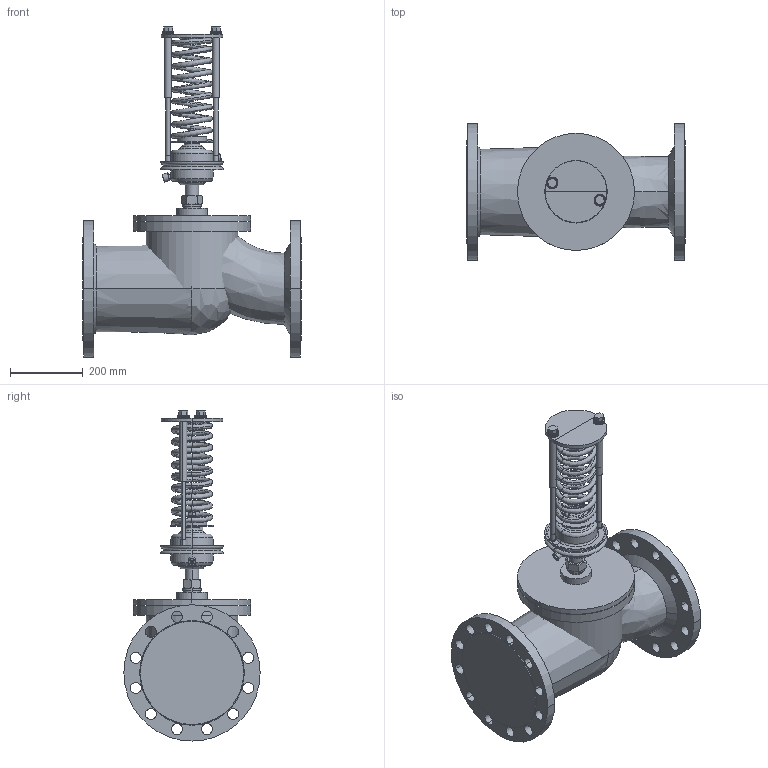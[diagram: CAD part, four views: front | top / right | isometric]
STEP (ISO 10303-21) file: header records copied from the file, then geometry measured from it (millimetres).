
FILE_DESCRIPTION(/* description */ (''),/* implementation_level */ '2;1');
FILE_NAME(/* name */ 'ETM_Регулятордавления_УРРД_НЗ_РД_DN200_PN40 0.05—0.3 МПа',/* time_stamp */ '2026-04-27T20:32:23+03:00',/* author */ (''),/* organization */ (''),/* preprocessor_version */ 'ST-DEVELOPER v20',/* originating_system */ '',/* authorisation */ '');
FILE_SCHEMA (('AP242_MANAGED_MODEL_BASED_3D_ENGINEERING_MIM_LF { 1 0 10303 442 1 1 4 }'));
Length unit declared in the file: millimetre
Products named in the file (13): TopLevelAssembly; Выдавливание; Переход; Выдавливание_
1; Переход_1; Переход_2; Переход_3; Объемная геометрия 
присоединена; Выдавливание_
2; Выдавливание_
3; Объемная геометрия 
присоединена_1; Выдавливание_
4; Пружина красная
Assembly tree (12 placements, depth 2):
  TopLevelAssembly
    Выдавливание
    Переход
    Выдавливание_
1
    Переход_1
    Переход_2
    Переход_3
    Объемная геометрия 
присоединена
    Выдавливание_
2
    Выдавливание_
3
    Объемная геометрия 
присоединена_1
    Выдавливание_
4
    Пружина красная
Bounding box: 600 x 375 x 908.35 mm (x, y, z)
Volume: 46730055.2 mm3; surface area: 2581632 mm2
Topology: 31 solids, 31 shells, 538 faces, 1101 edges, 605 vertices
Faces by surface type: plane 181, bspline 177, cylinder 170, cone 10
Entity records: 17318 total; most frequent: CARTESIAN_POINT 5461, DIRECTION 2505, ORIENTED_EDGE 2198, EDGE_CURVE 1099, AXIS2_PLACEMENT_3D 1054, CIRCLE 667, VERTEX_POINT 605, EDGE_LOOP 592
